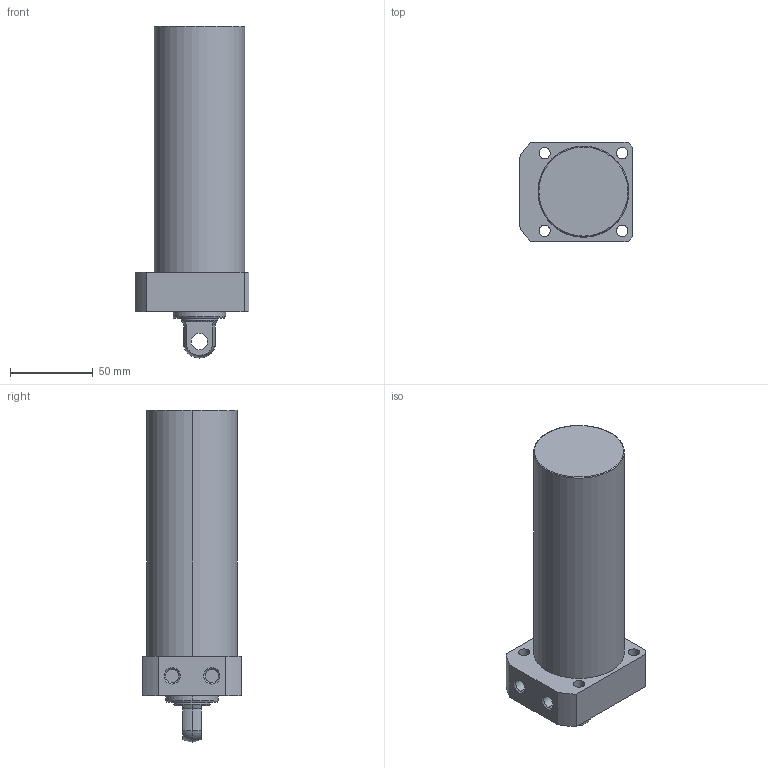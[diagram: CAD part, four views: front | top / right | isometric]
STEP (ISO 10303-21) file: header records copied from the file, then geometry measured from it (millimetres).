
FILE_DESCRIPTION (( 'STEP AP203' ), '1' );
FILE_NAME ('CLLR-055CP-120.STEP', '2019-12-17T12:39:11', ( '' ), ( '' ), 'SwSTEP 2.0', 'SolidWorks 2015', '' );
FILE_SCHEMA (( 'CONFIG_CONTROL_DESIGN' ));
Length unit declared in the file: millimetre
Products named in the file (1): CLLR-055CP-120
Bounding box: 69 x 60 x 201 mm (x, y, z)
Volume: 453522.5 mm3; surface area: 43963.4 mm2
Topology: 1 solids, 1 shells, 59 faces, 139 edges, 89 vertices
Faces by surface type: cylinder 29, plane 18, cone 8, torus 2, sphere 2
Entity records: 1822 total; most frequent: DIRECTION 331, CARTESIAN_POINT 300, ORIENTED_EDGE 278, EDGE_CURVE 139, AXIS2_PLACEMENT_3D 136, VERTEX_POINT 89, CIRCLE 76, EDGE_LOOP 76
